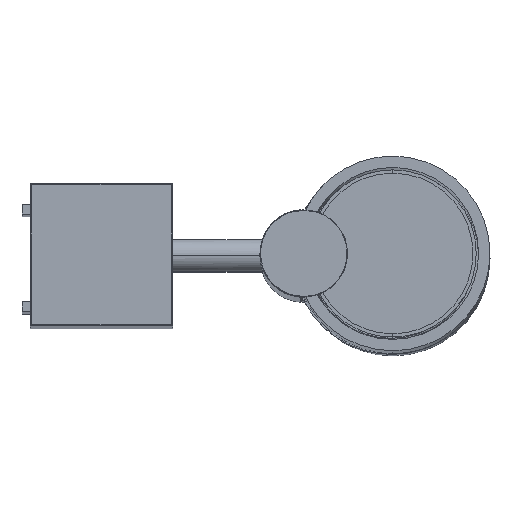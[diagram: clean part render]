
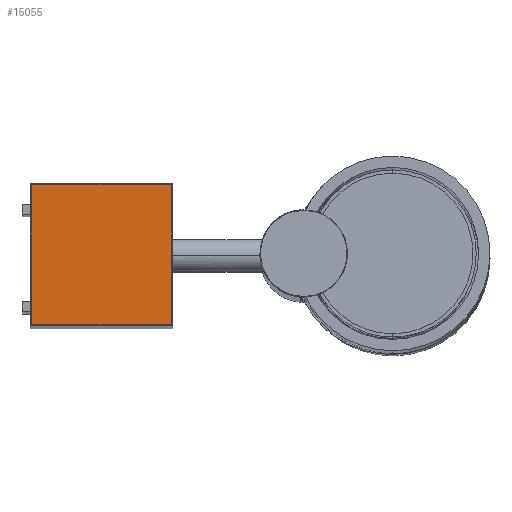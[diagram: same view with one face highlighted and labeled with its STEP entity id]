
A CAD part, top view. The second image highlights one B-rep face of the part: STEP entity #15055.
In plain terms, the highlighted planar face has unit normal (0, 0, 1).
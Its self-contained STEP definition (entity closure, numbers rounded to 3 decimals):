
#1184 = VERTEX_POINT ( 'NONE', #11018 ) ;
#1388 = CARTESIAN_POINT ( 'NONE',  ( 43.5, 22.969, 254. ) ) ;
#1418 = EDGE_LOOP ( 'NONE', ( #3846, #14124, #4062, #12595 ) ) ;
#1605 = DIRECTION ( 'NONE',  ( 1., 0., 0. ) ) ;
#1941 = VECTOR ( 'NONE', #6322, 1000. ) ;
#3810 = DIRECTION ( 'NONE',  ( 0., 0., -1. ) ) ;
#3846 = ORIENTED_EDGE ( 'NONE', *, *, #12669, .T. ) ;
#4062 = ORIENTED_EDGE ( 'NONE', *, *, #12948, .T. ) ;
#4751 = DIRECTION ( 'NONE',  ( 0., 1., 0. ) ) ;
#5014 = CARTESIAN_POINT ( 'NONE',  ( -0.446, -20.973, 254. ) ) ;
#6137 = VECTOR ( 'NONE', #4751, 1000. ) ;
#6320 = LINE ( 'NONE', #11063, #9479 ) ;
#6322 = DIRECTION ( 'NONE',  ( 0., -1., 0. ) ) ;
#6335 = LINE ( 'NONE', #7933, #9492 ) ;
#6480 = VERTEX_POINT ( 'NONE', #1388 ) ;
#7744 = VERTEX_POINT ( 'NONE', #9754 ) ;
#7933 = CARTESIAN_POINT ( 'NONE',  ( 43.5, 22.969, 254. ) ) ;
#8540 = EDGE_CURVE ( 'NONE', #7744, #9594, #14549, .T. ) ;
#8551 = PLANE ( 'NONE',  #9468 ) ;
#9468 = AXIS2_PLACEMENT_3D ( 'NONE', #12083, #3810, #12134 ) ;
#9479 = VECTOR ( 'NONE', #1605, 1000. ) ;
#9492 = VECTOR ( 'NONE', #15041, 1000. ) ;
#9594 = VERTEX_POINT ( 'NONE', #5014 ) ;
#9754 = CARTESIAN_POINT ( 'NONE',  ( -0.446, 22.973, 254. ) ) ;
#11018 = CARTESIAN_POINT ( 'NONE',  ( 43.5, -20.969, 254. ) ) ;
#11063 = CARTESIAN_POINT ( 'NONE',  ( 43.503, -20.969, 254. ) ) ;
#11889 = CARTESIAN_POINT ( 'NONE',  ( 43.5, 23., 254. ) ) ;
#12077 = LINE ( 'NONE', #11889, #6137 ) ;
#12083 = CARTESIAN_POINT ( 'NONE',  ( 43.5, 23., 254. ) ) ;
#12134 = DIRECTION ( 'NONE',  ( 0., 1., 0. ) ) ;
#12595 = ORIENTED_EDGE ( 'NONE', *, *, #12780, .T. ) ;
#12669 = EDGE_CURVE ( 'NONE', #6480, #7744, #6335, .T. ) ;
#12780 = EDGE_CURVE ( 'NONE', #1184, #6480, #12077, .T. ) ;
#12948 = EDGE_CURVE ( 'NONE', #9594, #1184, #6320, .T. ) ;
#14124 = ORIENTED_EDGE ( 'NONE', *, *, #8540, .T. ) ;
#14549 = LINE ( 'NONE', #14596, #1941 ) ;
#14596 = CARTESIAN_POINT ( 'NONE',  ( -0.446, 23., 254. ) ) ;
#14858 = FACE_OUTER_BOUND ( 'NONE', #1418, .T. ) ;
#15041 = DIRECTION ( 'NONE',  ( -1., 0., 0. ) ) ;
#15055 = ADVANCED_FACE ( 'NONE', ( #14858 ), #8551, .F. ) ;
